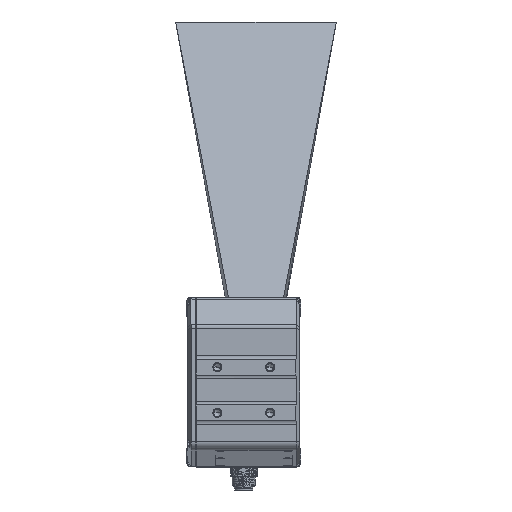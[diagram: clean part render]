
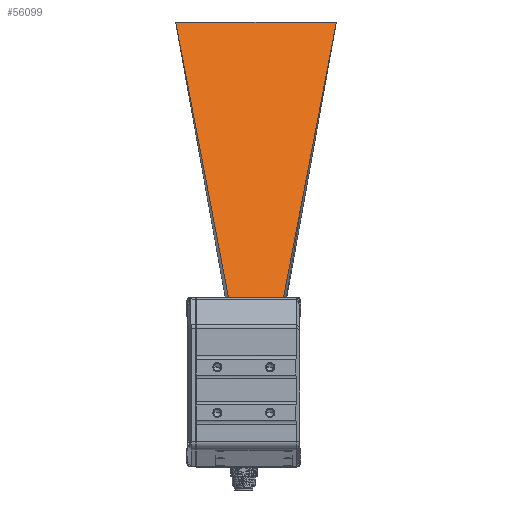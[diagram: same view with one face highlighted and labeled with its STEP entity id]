
A CAD part, left-side view. The second image highlights one B-rep face of the part: STEP entity #56099.
In plain terms, the highlighted planar face has unit normal (0.914, 0, -0.406).
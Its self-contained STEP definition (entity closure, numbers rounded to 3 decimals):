
#55993=DIRECTION('',(-0.4,-0.173,-0.9));
#55994=VECTOR('',#55993,183.762);
#55995=CARTESIAN_POINT('',(0.,38.7,205.));
#55996=LINE('',#55995,#55994);
#55997=DIRECTION('',(0.,-1.,0.));
#55998=VECTOR('',#55997,28.);
#55999=CARTESIAN_POINT('',(-73.511,7.,
39.592));
#56000=LINE('',#55999,#55998);
#56001=DIRECTION('',(0.4,-0.173,0.9));
#56002=VECTOR('',#56001,183.762);
#56003=CARTESIAN_POINT('',(-73.511,-21.,39.592));
#56004=LINE('',#56003,#56002);
#56005=DIRECTION('',(0.,1.,0.));
#56006=VECTOR('',#56005,91.4);
#56007=CARTESIAN_POINT('',(0.,-52.7,205.));
#56008=LINE('',#56007,#56006);
#56033=CARTESIAN_POINT('',(-73.511,-21.,39.592));
#56035=VERTEX_POINT('',#56033);
#56038=CARTESIAN_POINT('',(0.,-52.7,205.));
#56040=VERTEX_POINT('',#56038);
#56041=CARTESIAN_POINT('',(-73.511,7.,
39.592));
#56042=VERTEX_POINT('',#56041);
#56043=CARTESIAN_POINT('',(0.,38.7,205.));
#56044=VERTEX_POINT('',#56043);
#56085=CARTESIAN_POINT('',(-36.755,-7.,122.296));
#56086=DIRECTION('',(-0.914,0.,0.406));
#56087=DIRECTION('',(0.,-1.,0.));
#56088=AXIS2_PLACEMENT_3D('',#56085,#56086,#56087);
#56089=PLANE('',#56088);
#56091=ORIENTED_EDGE('',*,*,#56090,.T.);
#56093=ORIENTED_EDGE('',*,*,#56092,.T.);
#56094=ORIENTED_EDGE('',*,*,#56074,.T.);
#56096=ORIENTED_EDGE('',*,*,#56095,.T.);
#56097=EDGE_LOOP('',(#56091,#56093,#56094,#56096));
#56098=FACE_OUTER_BOUND('',#56097,.F.);
#56074=EDGE_CURVE('',#56035,#56040,#56004,.T.);
#56090=EDGE_CURVE('',#56044,#56042,#55996,.T.);
#56092=EDGE_CURVE('',#56042,#56035,#56000,.T.);
#56095=EDGE_CURVE('',#56040,#56044,#56008,.T.);
#56099=ADVANCED_FACE('',(#56098),#56089,.F.);
